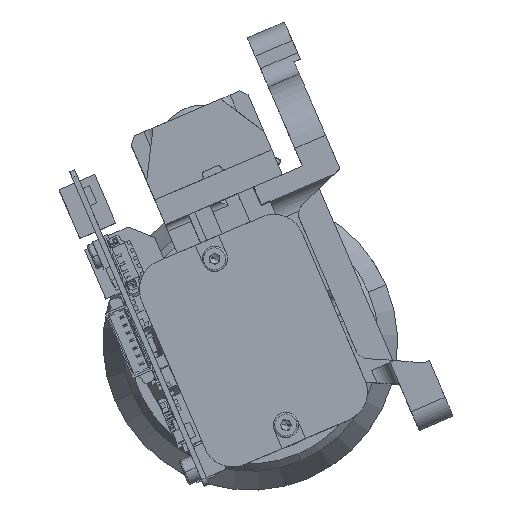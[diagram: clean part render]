
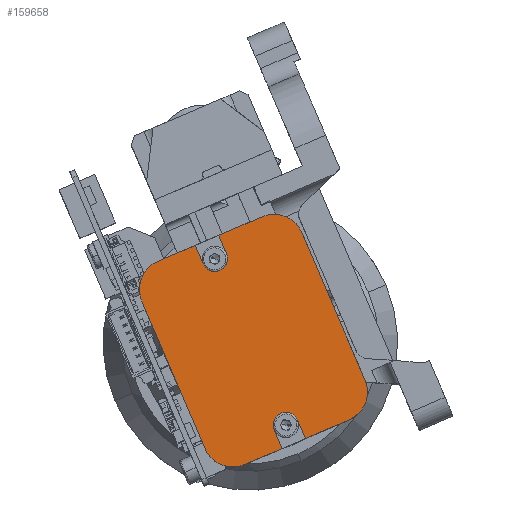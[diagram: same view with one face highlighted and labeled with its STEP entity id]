
A CAD part, top view. The second image highlights one B-rep face of the part: STEP entity #159658.
In plain terms, the highlighted planar face has unit normal (0, 0, 1).
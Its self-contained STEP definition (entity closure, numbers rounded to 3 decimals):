
#2066 = CARTESIAN_POINT ( 'NONE',  ( -29.5, 9.9, 4.5 ) ) ;
#3338 = ORIENTED_EDGE ( 'NONE', *, *, #10345, .F. ) ;
#6095 = LINE ( 'NONE', #243706, #187243 ) ;
#7544 = DIRECTION ( 'NONE',  ( -1., 0., 0. ) ) ;
#8145 = EDGE_CURVE ( 'NONE', #71041, #86780, #158430, .T. ) ;
#9729 = EDGE_LOOP ( 'NONE', ( #74044, #264146, #279500, #3338, #70136, #166462, #11762, #268957, #116094, #158635, #187981, #253263, #260249, #285581, #103478, #218804, #297772 ) ) ;
#10345 = EDGE_CURVE ( 'NONE', #18870, #305702, #14692, .T. ) ;
#11762 = ORIENTED_EDGE ( 'NONE', *, *, #67252, .F. ) ;
#12136 = FACE_OUTER_BOUND ( 'NONE', #9729, .T. ) ;
#13652 = CARTESIAN_POINT ( 'NONE',  ( -29.5, 8., 4.5 ) ) ;
#14635 = LINE ( 'NONE', #41216, #98178 ) ;
#14692 = LINE ( 'NONE', #39732, #30927 ) ;
#18333 = CARTESIAN_POINT ( 'NONE',  ( 0.5, 0., 4.5 ) ) ;
#18870 = VERTEX_POINT ( 'NONE', #275526 ) ;
#19373 = AXIS2_PLACEMENT_3D ( 'NONE', #180598, #158710, #7544 ) ;
#22242 = VERTEX_POINT ( 'NONE', #299875 ) ;
#30927 = VECTOR ( 'NONE', #300729, 1000. ) ;
#31643 = VECTOR ( 'NONE', #161820, 1000. ) ;
#35132 = AXIS2_PLACEMENT_3D ( 'NONE', #154438, #292012, #54518 ) ;
#36596 = EDGE_CURVE ( 'NONE', #160450, #215964, #199980, .T. ) ;
#37151 = CARTESIAN_POINT ( 'NONE',  ( -28., 21.5, 4.5 ) ) ;
#39732 = CARTESIAN_POINT ( 'NONE',  ( -4., 9.9, 4.5 ) ) ;
#41216 = CARTESIAN_POINT ( 'NONE',  ( -4., 6.1, 4.5 ) ) ;
#42608 = CARTESIAN_POINT ( 'NONE',  ( 0.5, 0., 4.5 ) ) ;
#44598 = EDGE_CURVE ( 'NONE', #22242, #83609, #14635, .T. ) ;
#45327 = CARTESIAN_POINT ( 'NONE',  ( -28., -4.5, 4.5 ) ) ;
#51118 = CARTESIAN_POINT ( 'NONE',  ( 0.5, 17., 4.5 ) ) ;
#51156 = CARTESIAN_POINT ( 'NONE',  ( -32.5, 9.9, 4.5 ) ) ;
#54518 = DIRECTION ( 'NONE',  ( 0., -1., 0. ) ) ;
#56530 = VERTEX_POINT ( 'NONE', #42608 ) ;
#66814 = DIRECTION ( 'NONE',  ( -1., 0., 0. ) ) ;
#67252 = EDGE_CURVE ( 'NONE', #183586, #135505, #116437, .T. ) ;
#70045 = DIRECTION ( 'NONE',  ( -1., 0., 0. ) ) ;
#70136 = ORIENTED_EDGE ( 'NONE', *, *, #191059, .F. ) ;
#71041 = VERTEX_POINT ( 'NONE', #51156 ) ;
#72135 = VECTOR ( 'NONE', #78145, 1000. ) ;
#73934 = EDGE_CURVE ( 'NONE', #143377, #22242, #237548, .T. ) ;
#74044 = ORIENTED_EDGE ( 'NONE', *, *, #44598, .F. ) ;
#78001 = CARTESIAN_POINT ( 'NONE',  ( -32.5, 0., 4.5 ) ) ;
#78145 = DIRECTION ( 'NONE',  ( 0., 1., 0. ) ) ;
#83158 = CARTESIAN_POINT ( 'NONE',  ( -2.5, 8., 4.5 ) ) ;
#83609 = VERTEX_POINT ( 'NONE', #192914 ) ;
#84402 = EDGE_CURVE ( 'NONE', #194744, #71041, #217240, .T. ) ;
#86780 = VERTEX_POINT ( 'NONE', #216983 ) ;
#87122 = DIRECTION ( 'NONE',  ( 0., 0., 1. ) ) ;
#87441 = DIRECTION ( 'NONE',  ( 0., 0., 1. ) ) ;
#89052 = CIRCLE ( 'NONE', #164056, 4.5 ) ;
#90366 = CARTESIAN_POINT ( 'NONE',  ( -28., 17., 4.5 ) ) ;
#94415 = VECTOR ( 'NONE', #114880, 1000. ) ;
#98178 = VECTOR ( 'NONE', #228760, 1000. ) ;
#99538 = EDGE_CURVE ( 'NONE', #215964, #230879, #278773, .T. ) ;
#103478 = ORIENTED_EDGE ( 'NONE', *, *, #270041, .F. ) ;
#105335 = CARTESIAN_POINT ( 'NONE',  ( -4.4, 8., 4.5 ) ) ;
#106293 = CARTESIAN_POINT ( 'NONE',  ( -4., -4.5, 4.5 ) ) ;
#110475 = CARTESIAN_POINT ( 'NONE',  ( -28., 0., 4.5 ) ) ;
#113733 = DIRECTION ( 'NONE',  ( 0., -1., 0. ) ) ;
#114880 = DIRECTION ( 'NONE',  ( 0., -1., 0. ) ) ;
#116094 = ORIENTED_EDGE ( 'NONE', *, *, #8145, .F. ) ;
#116328 = AXIS2_PLACEMENT_3D ( 'NONE', #206228, #87441, #156284 ) ;
#116437 = LINE ( 'NONE', #308647, #31643 ) ;
#120395 = DIRECTION ( 'NONE',  ( -1., 0., 0. ) ) ;
#122268 = AXIS2_PLACEMENT_3D ( 'NONE', #110475, #205809, #301125 ) ;
#123233 = EDGE_CURVE ( 'NONE', #230879, #194744, #219357, .T. ) ;
#124264 = CIRCLE ( 'NONE', #19373, 4.5 ) ;
#129616 = CARTESIAN_POINT ( 'NONE',  ( -32.5, 0., 4.5 ) ) ;
#135505 = VERTEX_POINT ( 'NONE', #305914 ) ;
#136505 = CARTESIAN_POINT ( 'NONE',  ( -32.5, 0., 4.5 ) ) ;
#143377 = VERTEX_POINT ( 'NONE', #105335 ) ;
#143882 = CARTESIAN_POINT ( 'NONE',  ( -4., 9.9, 4.5 ) ) ;
#144494 = CARTESIAN_POINT ( 'NONE',  ( 0.5, 0., 4.5 ) ) ;
#146241 = CIRCLE ( 'NONE', #116328, 1.9 ) ;
#149342 = EDGE_CURVE ( 'NONE', #256312, #160450, #257065, .T. ) ;
#152253 = CARTESIAN_POINT ( 'NONE',  ( -29.5, 6.1, 4.5 ) ) ;
#154438 = CARTESIAN_POINT ( 'NONE',  ( -4., 0., 4.5 ) ) ;
#156284 = DIRECTION ( 'NONE',  ( -1., 0., 0. ) ) ;
#158430 = LINE ( 'NONE', #136505, #254727 ) ;
#158635 = ORIENTED_EDGE ( 'NONE', *, *, #84402, .F. ) ;
#158710 = DIRECTION ( 'NONE',  ( 0., 0., -1. ) ) ;
#159658 = ADVANCED_FACE ( 'NONE', ( #12136 ), #202863, .F. ) ;
#160450 = VERTEX_POINT ( 'NONE', #78001 ) ;
#161820 = DIRECTION ( 'NONE',  ( 1., 0., 0. ) ) ;
#162838 = AXIS2_PLACEMENT_3D ( 'NONE', #83158, #269227, #178514 ) ;
#164056 = AXIS2_PLACEMENT_3D ( 'NONE', #90366, #238743, #70045 ) ;
#164562 = AXIS2_PLACEMENT_3D ( 'NONE', #13652, #87122, #66814 ) ;
#166462 = ORIENTED_EDGE ( 'NONE', *, *, #233906, .F. ) ;
#167938 = LINE ( 'NONE', #144494, #94415 ) ;
#172316 = AXIS2_PLACEMENT_3D ( 'NONE', #283824, #305735, #304191 ) ;
#178514 = DIRECTION ( 'NONE',  ( -1., 0., 0. ) ) ;
#180598 = CARTESIAN_POINT ( 'NONE',  ( -4., 0., 4.5 ) ) ;
#183586 = VERTEX_POINT ( 'NONE', #37151 ) ;
#187243 = VECTOR ( 'NONE', #245251, 1000. ) ;
#187981 = ORIENTED_EDGE ( 'NONE', *, *, #123233, .F. ) ;
#189012 = EDGE_CURVE ( 'NONE', #83609, #56530, #284044, .T. ) ;
#190764 = EDGE_CURVE ( 'NONE', #56530, #212058, #124264, .T. ) ;
#191059 = EDGE_CURVE ( 'NONE', #252161, #18870, #167938, .T. ) ;
#192914 = CARTESIAN_POINT ( 'NONE',  ( 0.5, 6.1, 4.5 ) ) ;
#194744 = VERTEX_POINT ( 'NONE', #2066 ) ;
#199980 = LINE ( 'NONE', #129616, #72135 ) ;
#202863 = PLANE ( 'NONE',  #35132 ) ;
#203694 = VECTOR ( 'NONE', #113733, 1000. ) ;
#205809 = DIRECTION ( 'NONE',  ( 0., 0., -1. ) ) ;
#206228 = CARTESIAN_POINT ( 'NONE',  ( -2.5, 8., 4.5 ) ) ;
#212058 = VERTEX_POINT ( 'NONE', #106293 ) ;
#215964 = VERTEX_POINT ( 'NONE', #306249 ) ;
#216983 = CARTESIAN_POINT ( 'NONE',  ( -32.5, 17., 4.5 ) ) ;
#217240 = LINE ( 'NONE', #143882, #286030 ) ;
#218804 = ORIENTED_EDGE ( 'NONE', *, *, #190764, .F. ) ;
#219357 = CIRCLE ( 'NONE', #164562, 1.9 ) ;
#228760 = DIRECTION ( 'NONE',  ( 1., 0., 0. ) ) ;
#230879 = VERTEX_POINT ( 'NONE', #152253 ) ;
#231779 = DIRECTION ( 'NONE',  ( 0., 1., 0. ) ) ;
#233906 = EDGE_CURVE ( 'NONE', #135505, #252161, #307070, .T. ) ;
#237548 = CIRCLE ( 'NONE', #162838, 1.9 ) ;
#238743 = DIRECTION ( 'NONE',  ( 0., 0., -1. ) ) ;
#243619 = EDGE_CURVE ( 'NONE', #86780, #183586, #89052, .T. ) ;
#243706 = CARTESIAN_POINT ( 'NONE',  ( -4., -4.5, 4.5 ) ) ;
#245251 = DIRECTION ( 'NONE',  ( -1., 0., 0. ) ) ;
#252161 = VERTEX_POINT ( 'NONE', #51118 ) ;
#253263 = ORIENTED_EDGE ( 'NONE', *, *, #99538, .F. ) ;
#254727 = VECTOR ( 'NONE', #231779, 1000. ) ;
#256312 = VERTEX_POINT ( 'NONE', #45327 ) ;
#256913 = DIRECTION ( 'NONE',  ( 1., 0., 0. ) ) ;
#256961 = CARTESIAN_POINT ( 'NONE',  ( -2.5, 9.9, 4.5 ) ) ;
#257065 = CIRCLE ( 'NONE', #122268, 4.5 ) ;
#260249 = ORIENTED_EDGE ( 'NONE', *, *, #36596, .F. ) ;
#264146 = ORIENTED_EDGE ( 'NONE', *, *, #73934, .F. ) ;
#268957 = ORIENTED_EDGE ( 'NONE', *, *, #243619, .F. ) ;
#269227 = DIRECTION ( 'NONE',  ( 0., 0., 1. ) ) ;
#270041 = EDGE_CURVE ( 'NONE', #212058, #256312, #6095, .T. ) ;
#275526 = CARTESIAN_POINT ( 'NONE',  ( 0.5, 9.9, 4.5 ) ) ;
#277896 = VECTOR ( 'NONE', #256913, 1000. ) ;
#278773 = LINE ( 'NONE', #302205, #277896 ) ;
#279500 = ORIENTED_EDGE ( 'NONE', *, *, #287150, .F. ) ;
#283824 = CARTESIAN_POINT ( 'NONE',  ( -4., 17., 4.5 ) ) ;
#284044 = LINE ( 'NONE', #18333, #203694 ) ;
#285581 = ORIENTED_EDGE ( 'NONE', *, *, #149342, .F. ) ;
#286030 = VECTOR ( 'NONE', #120395, 1000. ) ;
#287150 = EDGE_CURVE ( 'NONE', #305702, #143377, #146241, .T. ) ;
#292012 = DIRECTION ( 'NONE',  ( 0., 0., -1. ) ) ;
#297772 = ORIENTED_EDGE ( 'NONE', *, *, #189012, .F. ) ;
#299875 = CARTESIAN_POINT ( 'NONE',  ( -2.5, 6.1, 4.5 ) ) ;
#300729 = DIRECTION ( 'NONE',  ( -1., 0., 0. ) ) ;
#301125 = DIRECTION ( 'NONE',  ( -1., 0., 0. ) ) ;
#302205 = CARTESIAN_POINT ( 'NONE',  ( -4., 6.1, 4.5 ) ) ;
#304191 = DIRECTION ( 'NONE',  ( -1., 0., 0. ) ) ;
#305702 = VERTEX_POINT ( 'NONE', #256961 ) ;
#305735 = DIRECTION ( 'NONE',  ( 0., 0., -1. ) ) ;
#305914 = CARTESIAN_POINT ( 'NONE',  ( -4., 21.5, 4.5 ) ) ;
#306249 = CARTESIAN_POINT ( 'NONE',  ( -32.5, 6.1, 4.5 ) ) ;
#307070 = CIRCLE ( 'NONE', #172316, 4.5 ) ;
#308647 = CARTESIAN_POINT ( 'NONE',  ( -4., 21.5, 4.5 ) ) ;
